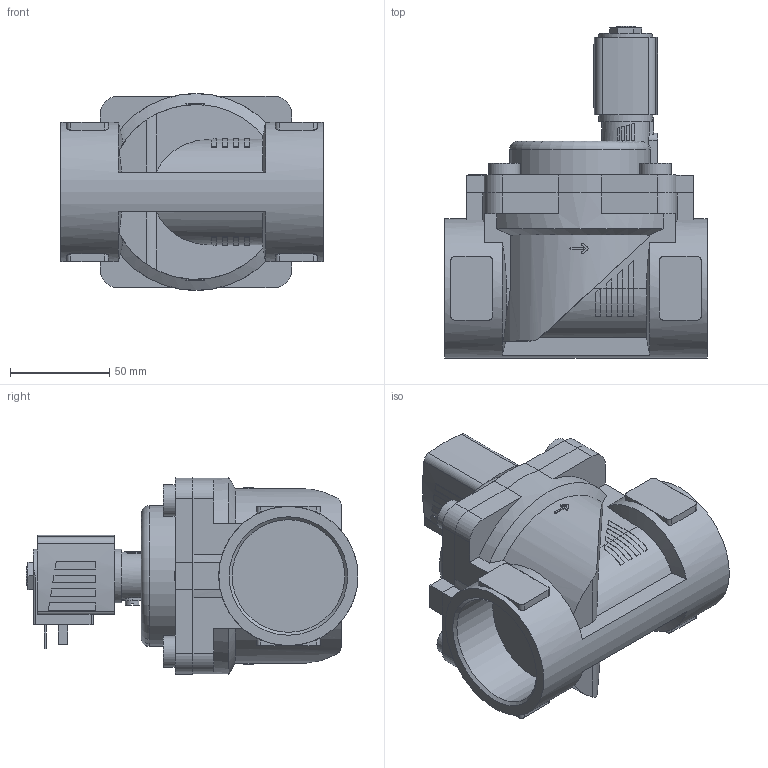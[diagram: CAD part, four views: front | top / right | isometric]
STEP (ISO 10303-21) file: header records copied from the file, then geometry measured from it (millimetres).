
FILE_DESCRIPTION(/* description */ ('STEP AP214'),/* implementation_level */ '2;1');
FILE_NAME(/* name */ '6281-357324-2_2-Way_Solenoid_Valve__Servo-assisted__General_Purpose',/* time_stamp */ '2024-09-06T10:03:39+02:00',/* author */ ('License CC BY-ND 4.0'),/* organization */ ('CADENAS'),/* preprocessor_version */ 'ST-DEVELOPER v19.3',/* originating_system */ 'PARTsolutions',/* authorisation */ ' ');
FILE_SCHEMA (('AUTOMOTIVE_DESIGN {1 0 10303 214 3 1 1}'));
Length unit declared in the file: millimetre
Products named in the file (4): 6281-357324-2/2-Way Solenoid Valve, Servo-assisted, General Purpose; 5281ev402VA2/2-Wege-Magnetventil mit Servomembran-Deckel 99HA15 ; 6213-40G2VA-Gehaeuse-; AC10ex-5NA38-Plan-Coil
Assembly tree (3 placements, depth 2):
  6281-357324-2/2-Way Solenoid Valve, Servo-assisted, General Purpose
    5281ev402VA2/2-Wege-Magnetventil mit Servomembran-Deckel 99HA15 
    6213-40G2VA-Gehaeuse-
    AC10ex-5NA38-Plan-Coil
Bounding box: 132 x 167 x 99 mm (x, y, z)
Volume: 749230.7 mm3; surface area: 102682.6 mm2
Topology: 3 solids, 3 shells, 363 faces, 953 edges, 630 vertices
Faces by surface type: plane 251, cylinder 96, cone 15, torus 1
Full cylindrical faces by diameter (mm): 2.013 x1, 7 x1, 9.74 x1, 16 x4, 27 x1, 56.656 x2, 70 x1
Entity records: 12500 total; most frequent: CARTESIAN_POINT 2201, ORIENTED_EDGE 1854, DIRECTION 1840, EDGE_CURVE 927, AXIS2_PLACEMENT_3D 623, VERTEX_POINT 621, LINE 594, VECTOR 594
